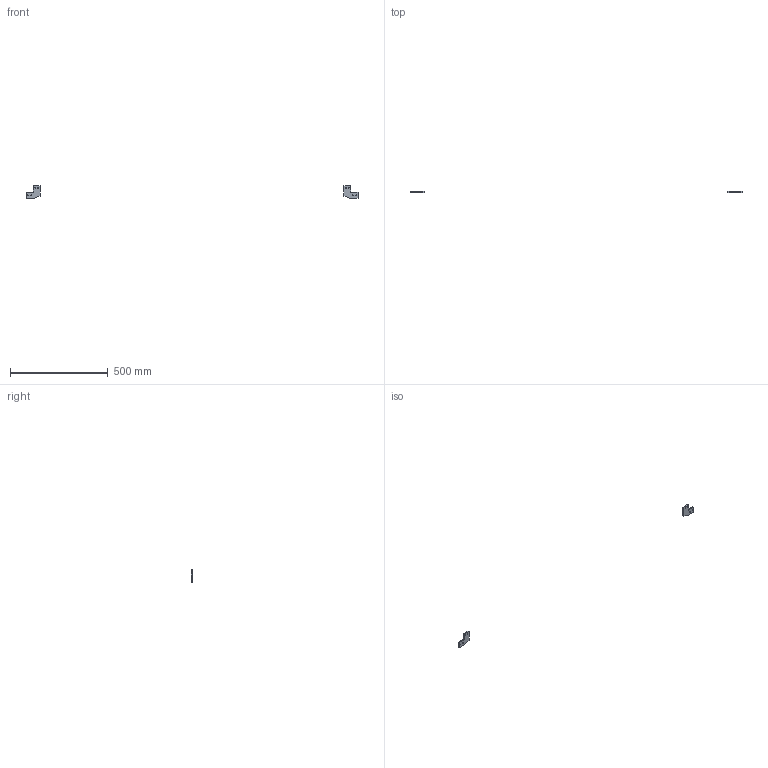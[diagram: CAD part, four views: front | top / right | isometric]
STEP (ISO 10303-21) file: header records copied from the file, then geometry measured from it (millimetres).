
FILE_DESCRIPTION(/* description */ (''),/* implementation_level */ '2;1');
FILE_NAME(/* name */ 'FR6331~1',/* time_stamp */ '2014-02-14T19:37:04+01:00',/* author */ (''),/* organization */ (''),/* preprocessor_version */ 'ST-DEVELOPER v14',/* originating_system */ '',/* authorisation */ '');
FILE_SCHEMA (('AUTOMOTIVE_DESIGN'));
Length unit declared in the file: millimetre
Products named in the file (1): Document
Bounding box: 1696 x 6 x 65 mm (x, y, z)
Volume: 38225.2 mm3; surface area: 16522 mm2
Topology: 2 solids, 2 shells, 34 faces, 90 edges, 60 vertices
Faces by surface type: plane 18, bspline 16
Entity records: 2303 total; most frequent: CARTESIAN_POINT 1100, B_SPLINE_CURVE_WITH_KNOTS 190, ORIENTED_EDGE 180, PCURVE 180, DEFINITIONAL_REPRESENTATION 180, SURFACE_CURVE 90, EDGE_CURVE 90, VERTEX_POINT 60
